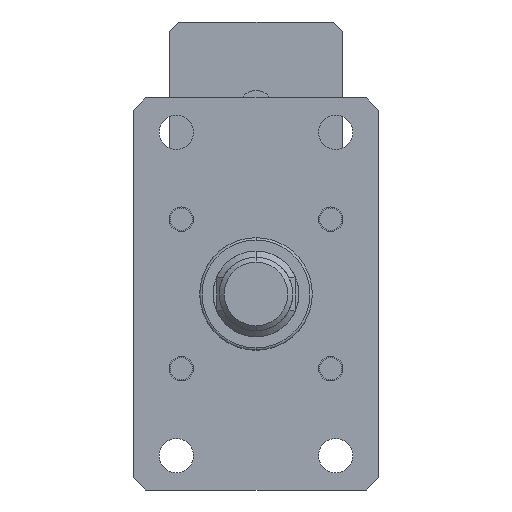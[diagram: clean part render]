
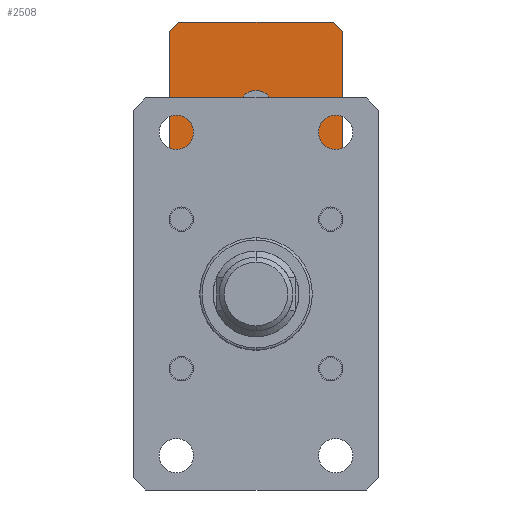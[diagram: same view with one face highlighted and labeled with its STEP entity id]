
A CAD part, front view. The second image highlights one B-rep face of the part: STEP entity #2508.
In plain terms, the highlighted planar face has unit normal (0, -1, 0).
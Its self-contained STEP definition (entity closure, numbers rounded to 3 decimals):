
#16 = ORIENTED_EDGE ( 'NONE', *, *, #3321, .F. ) ;
#197 = DIRECTION ( 'NONE',  ( 0., -1., 0. ) ) ;
#279 = DIRECTION ( 'NONE',  ( 1., 0., 0. ) ) ;
#425 = CARTESIAN_POINT ( 'NONE',  ( 0., 210., 83. ) ) ;
#513 = LINE ( 'NONE', #595, #6239 ) ;
#595 = CARTESIAN_POINT ( 'NONE',  ( 35.5, 210., 44. ) ) ;
#650 = EDGE_CURVE ( 'NONE', #6776, #5377, #4188, .T. ) ;
#695 = EDGE_CURVE ( 'NONE', #2921, #6562, #5139, .T. ) ;
#699 = CARTESIAN_POINT ( 'NONE',  ( -35.5, 210., 111. ) ) ;
#732 = EDGE_CURVE ( 'NONE', #2919, #5865, #2177, .T. ) ;
#772 = CARTESIAN_POINT ( 'NONE',  ( -31.5, 210., 111. ) ) ;
#793 = EDGE_CURVE ( 'NONE', #5988, #4273, #5942, .T. ) ;
#808 = EDGE_CURVE ( 'NONE', #4273, #6776, #4803, .T. ) ;
#882 = LINE ( 'NONE', #6604, #6625 ) ;
#896 = VECTOR ( 'NONE', #5921, 1000. ) ;
#953 = CARTESIAN_POINT ( 'NONE',  ( 35.5, 210., 111. ) ) ;
#986 = CARTESIAN_POINT ( 'NONE',  ( -31.5, 210., 40. ) ) ;
#1027 = DIRECTION ( 'NONE',  ( 0.707, 0., -0.707 ) ) ;
#1176 = CIRCLE ( 'NONE', #1780, 7.5 ) ;
#1211 = ORIENTED_EDGE ( 'NONE', *, *, #650, .T. ) ;
#1262 = PLANE ( 'NONE',  #2669 ) ;
#1324 = EDGE_CURVE ( 'NONE', #2921, #5988, #2763, .T. ) ;
#1664 = VECTOR ( 'NONE', #4860, 1000. ) ;
#1671 = DIRECTION ( 'NONE',  ( 0.707, 0., 0.707 ) ) ;
#1695 = ORIENTED_EDGE ( 'NONE', *, *, #4837, .T. ) ;
#1780 = AXIS2_PLACEMENT_3D ( 'NONE', #3505, #197, #4073 ) ;
#1817 = EDGE_LOOP ( 'NONE', ( #6662, #2866, #1211, #5085, #4854, #1695, #4251, #3343 ) ) ;
#1822 = DIRECTION ( 'NONE',  ( 0., 1., 0. ) ) ;
#2020 = CARTESIAN_POINT ( 'NONE',  ( -35.5, 210., 111. ) ) ;
#2177 = LINE ( 'NONE', #953, #6277 ) ;
#2186 = CARTESIAN_POINT ( 'NONE',  ( 0., 210., 68. ) ) ;
#2240 = CARTESIAN_POINT ( 'NONE',  ( -35.5, 210., 44. ) ) ;
#2253 = EDGE_CURVE ( 'NONE', #7169, #5529, #5382, .T. ) ;
#2508 = ADVANCED_FACE ( 'NONE', ( #5106, #6432 ), #1262, .F. ) ;
#2653 = CARTESIAN_POINT ( 'NONE',  ( -35.5, 210., 111. ) ) ;
#2669 = AXIS2_PLACEMENT_3D ( 'NONE', #699, #1822, #5718 ) ;
#2763 = LINE ( 'NONE', #3727, #1664 ) ;
#2866 = ORIENTED_EDGE ( 'NONE', *, *, #808, .T. ) ;
#2919 = VERTEX_POINT ( 'NONE', #2940 ) ;
#2921 = VERTEX_POINT ( 'NONE', #772 ) ;
#2940 = CARTESIAN_POINT ( 'NONE',  ( 35.5, 210., 107. ) ) ;
#2949 = VECTOR ( 'NONE', #6578, 1000. ) ;
#3053 = CARTESIAN_POINT ( 'NONE',  ( -35.5, 210., 40. ) ) ;
#3191 = DIRECTION ( 'NONE',  ( 0., -1., 0. ) ) ;
#3321 = EDGE_CURVE ( 'NONE', #5529, #7169, #1176, .T. ) ;
#3343 = ORIENTED_EDGE ( 'NONE', *, *, #1324, .T. ) ;
#3505 = CARTESIAN_POINT ( 'NONE',  ( 0., 210., 75.5 ) ) ;
#3727 = CARTESIAN_POINT ( 'NONE',  ( -31.5, 210., 111. ) ) ;
#3813 = DIRECTION ( 'NONE',  ( -0.707, 0., 0.707 ) ) ;
#3996 = VECTOR ( 'NONE', #279, 1000. ) ;
#4073 = DIRECTION ( 'NONE',  ( 0., 0., -1. ) ) ;
#4188 = LINE ( 'NONE', #3053, #3996 ) ;
#4251 = ORIENTED_EDGE ( 'NONE', *, *, #695, .F. ) ;
#4273 = VERTEX_POINT ( 'NONE', #2240 ) ;
#4274 = VECTOR ( 'NONE', #1027, 1000. ) ;
#4676 = CARTESIAN_POINT ( 'NONE',  ( 31.5, 210., 111. ) ) ;
#4803 = LINE ( 'NONE', #5477, #4274 ) ;
#4837 = EDGE_CURVE ( 'NONE', #2919, #6562, #882, .T. ) ;
#4854 = ORIENTED_EDGE ( 'NONE', *, *, #732, .F. ) ;
#4860 = DIRECTION ( 'NONE',  ( -0.707, 0., -0.707 ) ) ;
#5070 = EDGE_LOOP ( 'NONE', ( #16, #7021 ) ) ;
#5085 = ORIENTED_EDGE ( 'NONE', *, *, #6148, .T. ) ;
#5106 = FACE_BOUND ( 'NONE', #5070, .T. ) ;
#5139 = LINE ( 'NONE', #2020, #896 ) ;
#5377 = VERTEX_POINT ( 'NONE', #6545 ) ;
#5382 = CIRCLE ( 'NONE', #5571, 7.5 ) ;
#5477 = CARTESIAN_POINT ( 'NONE',  ( -35.5, 210., 44. ) ) ;
#5529 = VERTEX_POINT ( 'NONE', #2186 ) ;
#5571 = AXIS2_PLACEMENT_3D ( 'NONE', #6538, #3191, #7104 ) ;
#5718 = DIRECTION ( 'NONE',  ( 0., 0., 1. ) ) ;
#5865 = VERTEX_POINT ( 'NONE', #5900 ) ;
#5900 = CARTESIAN_POINT ( 'NONE',  ( 35.5, 210., 44. ) ) ;
#5921 = DIRECTION ( 'NONE',  ( 1., 0., 0. ) ) ;
#5942 = LINE ( 'NONE', #2653, #2949 ) ;
#5988 = VERTEX_POINT ( 'NONE', #5997 ) ;
#5997 = CARTESIAN_POINT ( 'NONE',  ( -35.5, 210., 107. ) ) ;
#6148 = EDGE_CURVE ( 'NONE', #5377, #5865, #513, .T. ) ;
#6239 = VECTOR ( 'NONE', #1671, 1000. ) ;
#6277 = VECTOR ( 'NONE', #6533, 1000. ) ;
#6432 = FACE_OUTER_BOUND ( 'NONE', #1817, .T. ) ;
#6533 = DIRECTION ( 'NONE',  ( 0., 0., -1. ) ) ;
#6538 = CARTESIAN_POINT ( 'NONE',  ( 0., 210., 75.5 ) ) ;
#6545 = CARTESIAN_POINT ( 'NONE',  ( 31.5, 210., 40. ) ) ;
#6562 = VERTEX_POINT ( 'NONE', #4676 ) ;
#6578 = DIRECTION ( 'NONE',  ( 0., 0., -1. ) ) ;
#6604 = CARTESIAN_POINT ( 'NONE',  ( 31.5, 210., 111. ) ) ;
#6625 = VECTOR ( 'NONE', #3813, 1000. ) ;
#6662 = ORIENTED_EDGE ( 'NONE', *, *, #793, .T. ) ;
#6776 = VERTEX_POINT ( 'NONE', #986 ) ;
#7021 = ORIENTED_EDGE ( 'NONE', *, *, #2253, .F. ) ;
#7104 = DIRECTION ( 'NONE',  ( 0., 0., -1. ) ) ;
#7169 = VERTEX_POINT ( 'NONE', #425 ) ;
